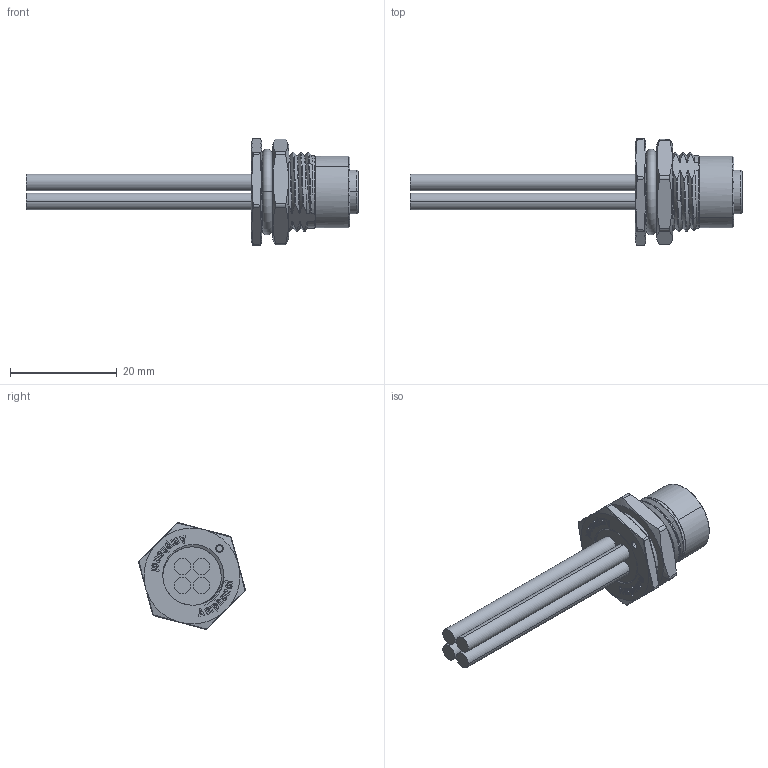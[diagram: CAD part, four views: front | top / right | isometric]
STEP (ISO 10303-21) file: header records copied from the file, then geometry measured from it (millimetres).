
FILE_DESCRIPTION((''),'2;1');
FILE_NAME('M12S-04PFFS-SF8BXX','2015-08-19T',('ks6143'),(''),'PRO/ENGINEER BY PARAMETRIC TECHNOLOGY CORPORATION, 2013050','PRO/ENGINEER BY PARAMETRIC TECHNOLOGY CORPORATION, 2013050','');
FILE_SCHEMA(('CONFIG_CONTROL_DESIGN'));
Products named in the file (1): M12S-04PFFS-SF8BXX
Bounding box: 62.2 x 19.96 x 19.96 mm (x, y, z)
Volume: 4044.8 mm3; surface area: 5875.3 mm2
Topology: 1 solids, 9 shells, 702 faces, 1822 edges, 1174 vertices
Faces by surface type: plane 276, cylinder 150, bspline 136, extrusion 80, cone 32, torus 28
Entity records: 56014 total; most frequent: CARTESIAN_POINT 35622, ORIENTED_EDGE 3644, DIRECTION 2566, EDGE_CURVE 1822, VERTEX_POINT 1174, VECTOR 964, LINE 884, AXIS2_PLACEMENT_3D 801
